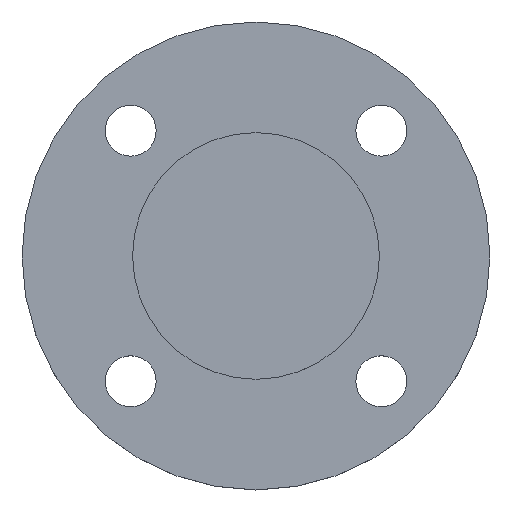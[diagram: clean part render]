
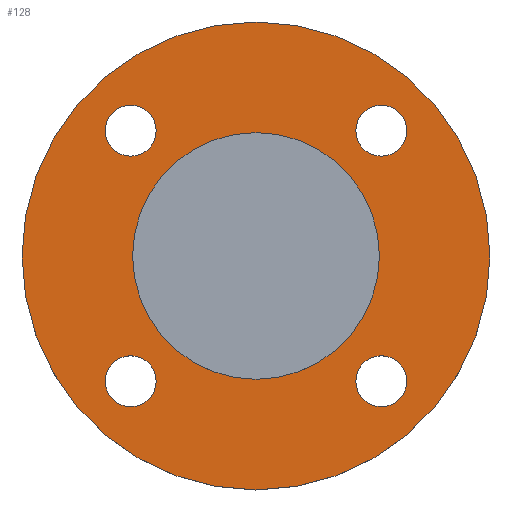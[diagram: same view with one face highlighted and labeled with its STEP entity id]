
A CAD part, top view. The second image highlights one B-rep face of the part: STEP entity #128.
In plain terms, the highlighted planar face has unit normal (0, 0, 1).
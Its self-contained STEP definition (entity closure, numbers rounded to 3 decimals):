
#1 = CIRCLE ( 'NONE', #8, 9. ) ;
#8 = AXIS2_PLACEMENT_3D ( 'NONE', #136, #138, #139 ) ;
#9 = CARTESIAN_POINT ( 'NONE',  ( -53.194, 44.194, -4.5 ) ) ;
#12 = AXIS2_PLACEMENT_3D ( 'NONE', #490, #492, #493 ) ;
#26 = DIRECTION ( 'NONE',  ( 0., 0., -1. ) ) ;
#28 = CARTESIAN_POINT ( 'NONE',  ( 0., 0., -4.5 ) ) ;
#41 = DIRECTION ( 'NONE',  ( 1., 0., 0. ) ) ;
#43 = DIRECTION ( 'NONE',  ( 0., 0., -1. ) ) ;
#46 = DIRECTION ( 'NONE',  ( -1., 0., 0. ) ) ;
#47 = CARTESIAN_POINT ( 'NONE',  ( -44.194, 44.194, -4.5 ) ) ;
#54 = CIRCLE ( 'NONE', #153, 9. ) ;
#59 = DIRECTION ( 'NONE',  ( 1., 0., 0. ) ) ;
#74 = AXIS2_PLACEMENT_3D ( 'NONE', #219, #43, #41 ) ;
#75 = CIRCLE ( 'NONE', #265, 9. ) ;
#80 = CIRCLE ( 'NONE', #84, 9. ) ;
#82 = EDGE_CURVE ( 'NONE', #347, #160, #571, .T. ) ;
#83 = AXIS2_PLACEMENT_3D ( 'NONE', #597, #598, #599 ) ;
#84 = AXIS2_PLACEMENT_3D ( 'NONE', #225, #227, #236 ) ;
#111 = CIRCLE ( 'NONE', #83, 43.5 ) ;
#113 = AXIS2_PLACEMENT_3D ( 'NONE', #28, #216, #46 ) ;
#116 = CIRCLE ( 'NONE', #402, 9. ) ;
#123 = EDGE_CURVE ( 'NONE', #359, #353, #135, .T. ) ;
#127 = CARTESIAN_POINT ( 'NONE',  ( -35.194, 44.194, -4.5 ) ) ;
#128 = ADVANCED_FACE ( 'NONE', ( #482, #483, #484, #486, #487, #488 ), #489, .T. ) ;
#129 = CIRCLE ( 'NONE', #434, 9. ) ;
#135 = CIRCLE ( 'NONE', #148, 9. ) ;
#136 = CARTESIAN_POINT ( 'NONE',  ( 44.194, 44.194, -4.5 ) ) ;
#138 = DIRECTION ( 'NONE',  ( 0., 0., -1. ) ) ;
#139 = DIRECTION ( 'NONE',  ( 1., 0., 0. ) ) ;
#148 = AXIS2_PLACEMENT_3D ( 'NONE', #477, #478, #481 ) ;
#150 = CARTESIAN_POINT ( 'NONE',  ( 44.194, -44.194, -4.5 ) ) ;
#153 = AXIS2_PLACEMENT_3D ( 'NONE', #47, #26, #59 ) ;
#155 = DIRECTION ( 'NONE',  ( 0., 0., -1. ) ) ;
#156 = DIRECTION ( 'NONE',  ( 1., 0., 0. ) ) ;
#158 = VERTEX_POINT ( 'NONE', #506 ) ;
#160 = VERTEX_POINT ( 'NONE', #512 ) ;
#161 = VERTEX_POINT ( 'NONE', #513 ) ;
#167 = VERTEX_POINT ( 'NONE', #524 ) ;
#215 = EDGE_CURVE ( 'NONE', #354, #370, #252, .T. ) ;
#216 = DIRECTION ( 'NONE',  ( 0., 0., -1. ) ) ;
#219 = CARTESIAN_POINT ( 'NONE',  ( 44.194, -44.194, -4.5 ) ) ;
#225 = CARTESIAN_POINT ( 'NONE',  ( 44.194, 44.194, -4.5 ) ) ;
#227 = DIRECTION ( 'NONE',  ( 0., 0., -1. ) ) ;
#236 = DIRECTION ( 'NONE',  ( 1., 0., 0. ) ) ;
#243 = VERTEX_POINT ( 'NONE', #563 ) ;
#244 = AXIS2_PLACEMENT_3D ( 'NONE', #546, #547, #548 ) ;
#252 = CIRCLE ( 'NONE', #244, 43.5 ) ;
#254 = EDGE_CURVE ( 'NONE', #388, #382, #75, .T. ) ;
#265 = AXIS2_PLACEMENT_3D ( 'NONE', #566, #568, #569 ) ;
#270 = ORIENTED_EDGE ( 'NONE', *, *, #462, .T. ) ;
#271 = ORIENTED_EDGE ( 'NONE', *, *, #533, .T. ) ;
#272 = ORIENTED_EDGE ( 'NONE', *, *, #123, .T. ) ;
#273 = ORIENTED_EDGE ( 'NONE', *, *, #293, .T. ) ;
#275 = ORIENTED_EDGE ( 'NONE', *, *, #254, .T. ) ;
#276 = ORIENTED_EDGE ( 'NONE', *, *, #606, .T. ) ;
#278 = ORIENTED_EDGE ( 'NONE', *, *, #446, .T. ) ;
#280 = ORIENTED_EDGE ( 'NONE', *, *, #631, .T. ) ;
#281 = ORIENTED_EDGE ( 'NONE', *, *, #309, .T. ) ;
#282 = ORIENTED_EDGE ( 'NONE', *, *, #215, .T. ) ;
#283 = ORIENTED_EDGE ( 'NONE', *, *, #550, .F. ) ;
#284 = ORIENTED_EDGE ( 'NONE', *, *, #82, .F. ) ;
#293 = EDGE_CURVE ( 'NONE', #353, #359, #116, .T. ) ;
#309 = EDGE_CURVE ( 'NONE', #370, #354, #111, .T. ) ;
#345 = EDGE_LOOP ( 'NONE', ( #272, #273 ) ) ;
#347 = VERTEX_POINT ( 'NONE', #613 ) ;
#353 = VERTEX_POINT ( 'NONE', #617 ) ;
#354 = VERTEX_POINT ( 'NONE', #618 ) ;
#359 = VERTEX_POINT ( 'NONE', #634 ) ;
#370 = VERTEX_POINT ( 'NONE', #638 ) ;
#376 = EDGE_LOOP ( 'NONE', ( #281, #282 ) ) ;
#377 = EDGE_LOOP ( 'NONE', ( #283, #284 ) ) ;
#382 = VERTEX_POINT ( 'NONE', #9 ) ;
#386 = EDGE_LOOP ( 'NONE', ( #275, #276 ) ) ;
#387 = EDGE_LOOP ( 'NONE', ( #278, #280 ) ) ;
#388 = VERTEX_POINT ( 'NONE', #127 ) ;
#395 = EDGE_LOOP ( 'NONE', ( #270, #271 ) ) ;
#402 = AXIS2_PLACEMENT_3D ( 'NONE', #589, #590, #592 ) ;
#434 = AXIS2_PLACEMENT_3D ( 'NONE', #150, #155, #156 ) ;
#446 = EDGE_CURVE ( 'NONE', #167, #158, #1, .T. ) ;
#456 = CARTESIAN_POINT ( 'NONE',  ( 0., 0., -4.5 ) ) ;
#457 = DIRECTION ( 'NONE',  ( 0., 0., -1. ) ) ;
#459 = DIRECTION ( 'NONE',  ( -1., 0., 0. ) ) ;
#462 = EDGE_CURVE ( 'NONE', #243, #161, #129, .T. ) ;
#477 = CARTESIAN_POINT ( 'NONE',  ( -44.194, -44.194, -4.5 ) ) ;
#478 = DIRECTION ( 'NONE',  ( 0., 0., -1. ) ) ;
#481 = DIRECTION ( 'NONE',  ( 1., 0., 0. ) ) ;
#482 = FACE_BOUND ( 'NONE', #395, .T. ) ;
#483 = FACE_BOUND ( 'NONE', #345, .T. ) ;
#484 = FACE_BOUND ( 'NONE', #386, .T. ) ;
#486 = FACE_BOUND ( 'NONE', #387, .T. ) ;
#487 = FACE_BOUND ( 'NONE', #376, .T. ) ;
#488 = FACE_OUTER_BOUND ( 'NONE', #377, .T. ) ;
#489 = PLANE ( 'NONE',  #12 ) ;
#490 = CARTESIAN_POINT ( 'NONE',  ( 43.5, 0., -4.5 ) ) ;
#492 = DIRECTION ( 'NONE',  ( 0., 0., 1. ) ) ;
#493 = DIRECTION ( 'NONE',  ( 1., 0., 0. ) ) ;
#506 = CARTESIAN_POINT ( 'NONE',  ( 35.194, 44.194, -4.5 ) ) ;
#509 = CIRCLE ( 'NONE', #74, 9. ) ;
#512 = CARTESIAN_POINT ( 'NONE',  ( 82.5, 0., -4.5 ) ) ;
#513 = CARTESIAN_POINT ( 'NONE',  ( 35.194, -44.194, -4.5 ) ) ;
#524 = CARTESIAN_POINT ( 'NONE',  ( 53.194, 44.194, -4.5 ) ) ;
#527 = CIRCLE ( 'NONE', #113, 82.5 ) ;
#533 = EDGE_CURVE ( 'NONE', #161, #243, #509, .T. ) ;
#546 = CARTESIAN_POINT ( 'NONE',  ( 0., 0., -4.5 ) ) ;
#547 = DIRECTION ( 'NONE',  ( 0., 0., -1. ) ) ;
#548 = DIRECTION ( 'NONE',  ( -1., 0., 0. ) ) ;
#550 = EDGE_CURVE ( 'NONE', #160, #347, #527, .T. ) ;
#563 = CARTESIAN_POINT ( 'NONE',  ( 53.194, -44.194, -4.5 ) ) ;
#566 = CARTESIAN_POINT ( 'NONE',  ( -44.194, 44.194, -4.5 ) ) ;
#568 = DIRECTION ( 'NONE',  ( 0., 0., -1. ) ) ;
#569 = DIRECTION ( 'NONE',  ( 1., 0., 0. ) ) ;
#571 = CIRCLE ( 'NONE', #574, 82.5 ) ;
#574 = AXIS2_PLACEMENT_3D ( 'NONE', #456, #457, #459 ) ;
#589 = CARTESIAN_POINT ( 'NONE',  ( -44.194, -44.194, -4.5 ) ) ;
#590 = DIRECTION ( 'NONE',  ( 0., 0., -1. ) ) ;
#592 = DIRECTION ( 'NONE',  ( 1., 0., 0. ) ) ;
#597 = CARTESIAN_POINT ( 'NONE',  ( 0., 0., -4.5 ) ) ;
#598 = DIRECTION ( 'NONE',  ( 0., 0., -1. ) ) ;
#599 = DIRECTION ( 'NONE',  ( -1., 0., 0. ) ) ;
#606 = EDGE_CURVE ( 'NONE', #382, #388, #54, .T. ) ;
#613 = CARTESIAN_POINT ( 'NONE',  ( -82.5, 0., -4.5 ) ) ;
#617 = CARTESIAN_POINT ( 'NONE',  ( -53.194, -44.194, -4.5 ) ) ;
#618 = CARTESIAN_POINT ( 'NONE',  ( 43.5, 0., -4.5 ) ) ;
#631 = EDGE_CURVE ( 'NONE', #158, #167, #80, .T. ) ;
#634 = CARTESIAN_POINT ( 'NONE',  ( -35.194, -44.194, -4.5 ) ) ;
#638 = CARTESIAN_POINT ( 'NONE',  ( -43.5, 0., -4.5 ) ) ;
